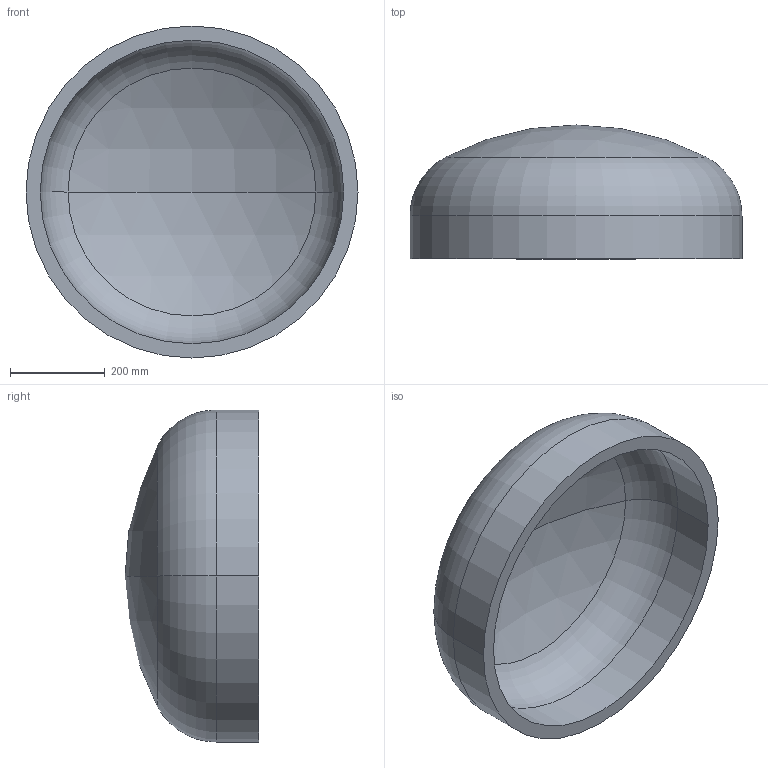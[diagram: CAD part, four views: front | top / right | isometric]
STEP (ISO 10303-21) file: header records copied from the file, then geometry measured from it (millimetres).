
FILE_DESCRIPTION (( 'STEP AP203' ), '1' );
FILE_NAME ('DIN 28013 Korbbogenform_-_Boden DIN 28013 - 700 x 90 - I - s=30.step', '2016-07-01T08:06:25', ( '' ), ( '' ), 'SwSTEP 2.0', 'SolidWorks 2013', '' );
FILE_SCHEMA (( 'CONFIG_CONTROL_DESIGN' ));
Length unit declared in the file: millimetre
Products named in the file (1): DIN 28013 Korbbogenform_-_Boden DIN 28013 - 700 x 90 - I - s=30
Bounding box: 700 x 282 x 700 mm (x, y, z)
Volume: 20874382.5 mm3; surface area: 1456656.2 mm2
Topology: 1 solids, 1 shells, 13 faces, 24 edges, 14 vertices
Faces by surface type: torus 4, cylinder 4, sphere 4, plane 1
Entity records: 407 total; most frequent: DIRECTION 72, CARTESIAN_POINT 52, ORIENTED_EDGE 48, AXIS2_PLACEMENT_3D 34, EDGE_CURVE 24, CIRCLE 20, EDGE_LOOP 14, VERTEX_POINT 14
